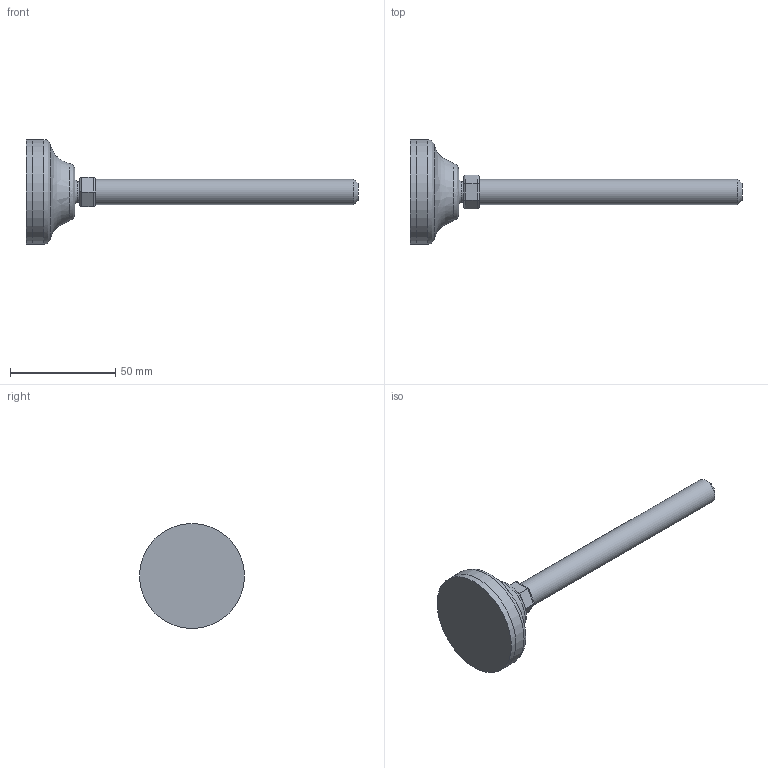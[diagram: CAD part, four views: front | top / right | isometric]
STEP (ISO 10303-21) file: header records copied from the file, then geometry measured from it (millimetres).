
FILE_DESCRIPTION(('STEP AP203'),'2;1');
FILE_NAME('10037.stp','2013-12-04T09:12:10',(''),(''),'2008.1.107','THINKDESIGN','');
FILE_SCHEMA(('CONFIG_CONTROL_DESIGN'));
Length unit declared in the file: millimetre
Bounding box: 158 x 50 x 50 mm (x, y, z)
Volume: 46926.7 mm3; surface area: 15841.1 mm2
Topology: 5 solids, 5 shells, 37 faces, 77 edges, 50 vertices
Faces by surface type: plane 16, cylinder 16, bspline 5
Full cylindrical faces by diameter (mm): 9.747 x1, 12 x1, 50 x2
Entity records: 1298 total; most frequent: CARTESIAN_POINT 431, DIRECTION 159, ORIENTED_EDGE 154, EDGE_CURVE 77, AXIS2_PLACEMENT_3D 62, VERTEX_POINT 50, EDGE_LOOP 37, FACE_OUTER_BOUND 37
